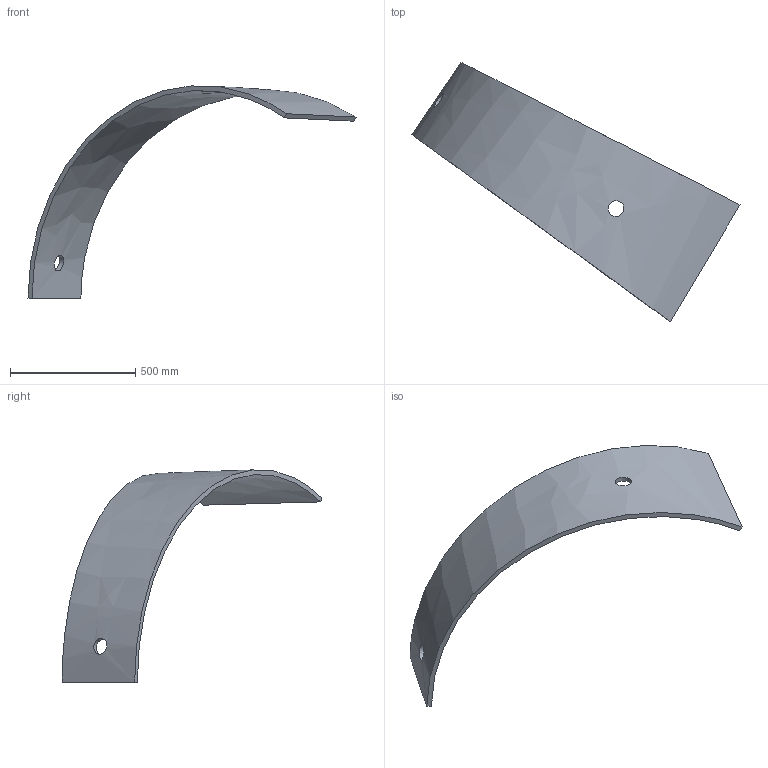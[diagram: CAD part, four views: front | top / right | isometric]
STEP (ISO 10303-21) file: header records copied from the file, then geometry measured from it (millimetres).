
FILE_DESCRIPTION (( 'STEP AP214' ), '1' );
FILE_NAME ('Section 7-C.STEP', '2025-01-09T19:43:28', ( '' ), ( '' ), 'SwSTEP 2.0', 'SolidWorks 2024', '' );
FILE_SCHEMA (( 'AUTOMOTIVE_DESIGN' ));
Length unit declared in the file: inch
Products named in the file (1): Section 7-C
Bounding box: 1308.43 x 1036.63 x 846.4 mm (x, y, z)
Volume: 13940135.7 mm3; surface area: 1554225.3 mm2
Topology: 1 solids, 1 shells, 8 faces, 18 edges, 12 vertices
Faces by surface type: bspline 6, cylinder 2
Full cylindrical faces by diameter (mm): 63.5 x2
Entity records: 863 total; most frequent: CARTESIAN_POINT 703, ORIENTED_EDGE 32, EDGE_CURVE 16, B_SPLINE_CURVE_WITH_KNOTS 16, EDGE_LOOP 14, VERTEX_POINT 12, FACE_OUTER_BOUND 10, ADVANCED_FACE 8
